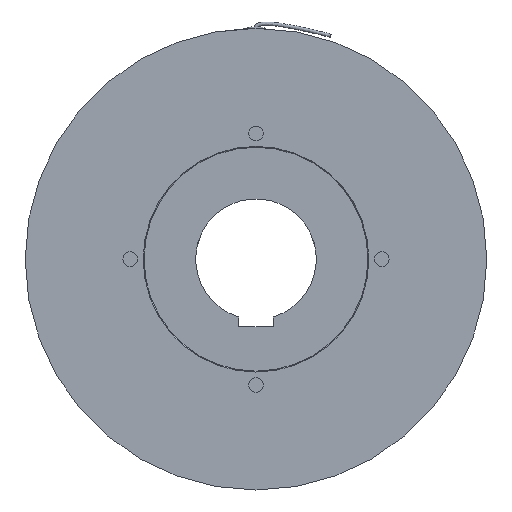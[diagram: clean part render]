
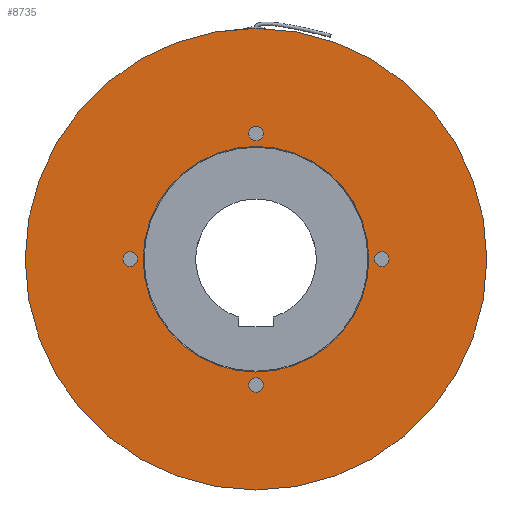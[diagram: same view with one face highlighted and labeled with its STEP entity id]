
A CAD part, left-side view. The second image highlights one B-rep face of the part: STEP entity #8735.
In plain terms, the highlighted planar face has unit normal (-1, 0, 0).
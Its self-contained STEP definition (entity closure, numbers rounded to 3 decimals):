
#124=FACE_BOUND('',#1888,.T.);
#125=FACE_BOUND('',#1889,.T.);
#126=FACE_BOUND('',#1890,.T.);
#127=FACE_BOUND('',#1891,.T.);
#128=FACE_BOUND('',#1892,.T.);
#230=PLANE('',#9303);
#1426=FACE_OUTER_BOUND('',#1887,.T.);
#1887=EDGE_LOOP('',(#5775,#5776));
#1888=EDGE_LOOP('',(#5777,#5778));
#1889=EDGE_LOOP('',(#5779,#5780));
#1890=EDGE_LOOP('',(#5781,#5782));
#1891=EDGE_LOOP('',(#5783,#5784));
#1892=EDGE_LOOP('',(#5785));
#2526=CIRCLE('',#9267,134.);
#2527=CIRCLE('',#9268,134.);
#2532=CIRCLE('',#9275,65.5);
#2535=CIRCLE('',#9280,4.25);
#2536=CIRCLE('',#9281,4.25);
#2537=CIRCLE('',#9283,4.25);
#2538=CIRCLE('',#9284,4.25);
#2539=CIRCLE('',#9286,4.25);
#2540=CIRCLE('',#9287,4.25);
#2541=CIRCLE('',#9289,4.25);
#2542=CIRCLE('',#9290,4.25);
#3418=VERTEX_POINT('',#13836);
#3419=VERTEX_POINT('',#13837);
#3424=VERTEX_POINT('',#13852);
#3427=VERTEX_POINT('',#13862);
#3428=VERTEX_POINT('',#13863);
#3429=VERTEX_POINT('',#13868);
#3430=VERTEX_POINT('',#13869);
#3431=VERTEX_POINT('',#13874);
#3432=VERTEX_POINT('',#13875);
#3433=VERTEX_POINT('',#13880);
#3434=VERTEX_POINT('',#13881);
#4334=EDGE_CURVE('',#3418,#3419,#2526,.T.);
#4335=EDGE_CURVE('',#3419,#3418,#2527,.T.);
#4343=EDGE_CURVE('',#3424,#3424,#2532,.T.);
#4347=EDGE_CURVE('',#3427,#3428,#2535,.T.);
#4348=EDGE_CURVE('',#3428,#3427,#2536,.T.);
#4350=EDGE_CURVE('',#3429,#3430,#2537,.T.);
#4351=EDGE_CURVE('',#3430,#3429,#2538,.T.);
#4353=EDGE_CURVE('',#3431,#3432,#2539,.T.);
#4354=EDGE_CURVE('',#3432,#3431,#2540,.T.);
#4356=EDGE_CURVE('',#3433,#3434,#2541,.T.);
#4357=EDGE_CURVE('',#3434,#3433,#2542,.T.);
#5775=ORIENTED_EDGE('',*,*,#4334,.T.);
#5776=ORIENTED_EDGE('',*,*,#4335,.T.);
#5777=ORIENTED_EDGE('',*,*,#4356,.T.);
#5778=ORIENTED_EDGE('',*,*,#4357,.T.);
#5779=ORIENTED_EDGE('',*,*,#4353,.T.);
#5780=ORIENTED_EDGE('',*,*,#4354,.T.);
#5781=ORIENTED_EDGE('',*,*,#4350,.T.);
#5782=ORIENTED_EDGE('',*,*,#4351,.T.);
#5783=ORIENTED_EDGE('',*,*,#4347,.T.);
#5784=ORIENTED_EDGE('',*,*,#4348,.T.);
#5785=ORIENTED_EDGE('',*,*,#4343,.F.);
#8735=ADVANCED_FACE('',(#1426,#124,#125,#126,#127,#128),#230,.T.);
#9267=AXIS2_PLACEMENT_3D('',#13838,#10692,#10693);
#9268=AXIS2_PLACEMENT_3D('',#13839,#10694,#10695);
#9275=AXIS2_PLACEMENT_3D('',#13854,#10711,#10712);
#9280=AXIS2_PLACEMENT_3D('',#13864,#10722,#10723);
#9281=AXIS2_PLACEMENT_3D('',#13865,#10724,#10725);
#9283=AXIS2_PLACEMENT_3D('',#13870,#10729,#10730);
#9284=AXIS2_PLACEMENT_3D('',#13871,#10731,#10732);
#9286=AXIS2_PLACEMENT_3D('',#13876,#10736,#10737);
#9287=AXIS2_PLACEMENT_3D('',#13877,#10738,#10739);
#9289=AXIS2_PLACEMENT_3D('',#13882,#10743,#10744);
#9290=AXIS2_PLACEMENT_3D('',#13883,#10745,#10746);
#9303=AXIS2_PLACEMENT_3D('',#13907,#10774,#10775);
#10692=DIRECTION('center_axis',(-1.,0.,0.));
#10693=DIRECTION('ref_axis',(0.,1.,0.));
#10694=DIRECTION('center_axis',(-1.,0.,0.));
#10695=DIRECTION('ref_axis',(0.,1.,0.));
#10711=DIRECTION('center_axis',(-1.,0.,0.));
#10712=DIRECTION('ref_axis',(0.,-1.,0.));
#10722=DIRECTION('center_axis',(1.,0.,0.));
#10723=DIRECTION('ref_axis',(0.,1.,0.));
#10724=DIRECTION('center_axis',(1.,0.,0.));
#10725=DIRECTION('ref_axis',(0.,1.,0.));
#10729=DIRECTION('center_axis',(1.,0.,0.));
#10730=DIRECTION('ref_axis',(0.,1.,0.));
#10731=DIRECTION('center_axis',(1.,0.,0.));
#10732=DIRECTION('ref_axis',(0.,1.,0.));
#10736=DIRECTION('center_axis',(1.,0.,0.));
#10737=DIRECTION('ref_axis',(0.,1.,0.));
#10738=DIRECTION('center_axis',(1.,0.,0.));
#10739=DIRECTION('ref_axis',(0.,1.,0.));
#10743=DIRECTION('center_axis',(1.,0.,0.));
#10744=DIRECTION('ref_axis',(0.,1.,0.));
#10745=DIRECTION('center_axis',(1.,0.,0.));
#10746=DIRECTION('ref_axis',(0.,1.,0.));
#10774=DIRECTION('center_axis',(-1.,0.,0.));
#10775=DIRECTION('ref_axis',(0.,0.,
1.));
#13836=CARTESIAN_POINT('',(-19.8,134.,0.));
#13837=CARTESIAN_POINT('',(-19.8,-134.,0.));
#13838=CARTESIAN_POINT('Origin',(-19.8,0.,0.));
#13839=CARTESIAN_POINT('Origin',(-19.8,0.,0.));
#13852=CARTESIAN_POINT('',(-19.8,65.5,0.));
#13854=CARTESIAN_POINT('Origin',(-19.8,0.,0.));
#13862=CARTESIAN_POINT('',(-19.8,-68.75,0.));
#13863=CARTESIAN_POINT('',(-19.8,-77.25,0.));
#13864=CARTESIAN_POINT('Origin',(-19.8,-73.,0.));
#13865=CARTESIAN_POINT('Origin',(-19.8,-73.,0.));
#13868=CARTESIAN_POINT('',(-19.8,77.25,0.));
#13869=CARTESIAN_POINT('',(-19.8,68.75,0.));
#13870=CARTESIAN_POINT('Origin',(-19.8,73.,0.));
#13871=CARTESIAN_POINT('Origin',(-19.8,73.,0.));
#13874=CARTESIAN_POINT('',(-19.8,4.25,73.));
#13875=CARTESIAN_POINT('',(-19.8,-4.25,73.));
#13876=CARTESIAN_POINT('Origin',(-19.8,0.,73.));
#13877=CARTESIAN_POINT('Origin',(-19.8,0.,73.));
#13880=CARTESIAN_POINT('',(-19.8,4.25,-73.));
#13881=CARTESIAN_POINT('',(-19.8,-4.25,-73.));
#13882=CARTESIAN_POINT('Origin',(-19.8,0.,-73.));
#13883=CARTESIAN_POINT('Origin',(-19.8,0.,-73.));
#13907=CARTESIAN_POINT('Origin',(-19.8,99.5,0.));
